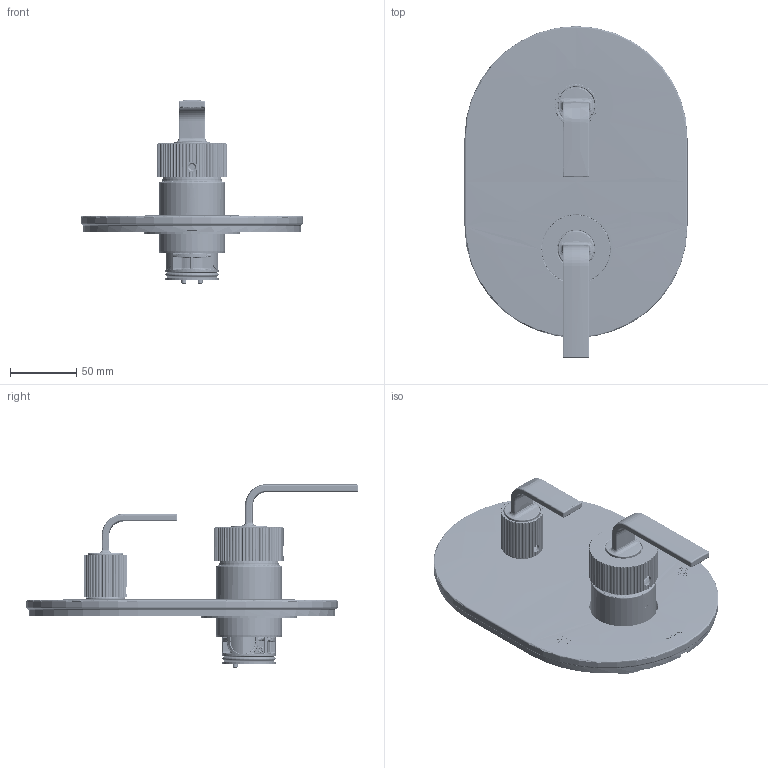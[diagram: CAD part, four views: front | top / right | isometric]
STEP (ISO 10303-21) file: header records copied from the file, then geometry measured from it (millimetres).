
FILE_DESCRIPTION (( 'STEP AP203' ), '1' );
FILE_NAME ('sku_uts3511series_stp.STEP', '2026-01-22T08:37:13', ( '' ), ( '' ), 'SwSTEP 2.0', 'SolidWorks 2025', '' );
FILE_SCHEMA (( 'CONFIG_CONTROL_DESIGN' ));
Length unit declared in the file: inch
Products named in the file (30): 216041SERIES_216041SERIES_Part339; KN40_HWS_FEDEL_KN40_HWS_FEDEL_Part319; O_GYURU_35X2_5_O_GYURU_35X2_5_Part327; 1000478_1000478_Assem60; MOEN_PB_TALP_T_MITES_MOEN_PB_TALP_T_MITES_Part324; O_GYURU17X1_5_1_O_GYURU17X1_5_1_Part326; 202780SERIES_202780series_Part340; PB_ZARO_V2_1_PB_ZARO_V2_1_Part330; 218845SERIES_218845SERIES_Part334; PB_ZARO_V2_PB_ZARO_V2_Part329; 216042SERIES_216042SERIES_Part337; 197655_197655_BREP_Part333; 216046SERIES_6695_mcore_transfer_handle_Assem63; HERNYOCSAVAR_HERNYOCSAVAR_Part318; 218847SERIES_218847SERIES_Assem62; PB_BETET_A_TALPPAL_PB_BETET_A_TALPPAL_Part328; KN40_KAR_HWS_KN40_KAR_HWS_Part322; 216055_HANDLE NUT_Part336; KN40_HWS_GYURU_KN40_HWS_GYURU_Part320; 197664_197664_BREP_Part332; KN40_STIFT_KN40_STIFT_Part323; 197636_197636_BREP_Part344; 216040_216040_Part338; 210425_FBIN_MM_ASSY_Assem61; 210423_Part1_Part331; 196901series_196901SERIES_Part341; O_GYURU17X1_5_O_GYURU17X1_5_Part325; sku_uts3511series_stp; 218844_218844SERIES_Part335; KN40_KARTARTO_HWS_KN40_KARTARTO_HWS_Part321
Assembly tree (29 placements, depth 3):
  sku_uts3511series_stp
    1000478_1000478_Assem60
      HERNYOCSAVAR_HERNYOCSAVAR_Part318
      KN40_HWS_FEDEL_KN40_HWS_FEDEL_Part319
      KN40_HWS_GYURU_KN40_HWS_GYURU_Part320
      KN40_KARTARTO_HWS_KN40_KARTARTO_HWS_Part321
      KN40_KAR_HWS_KN40_KAR_HWS_Part322
      KN40_STIFT_KN40_STIFT_Part323
      MOEN_PB_TALP_T_MITES_MOEN_PB_TALP_T_MITES_Part324
      O_GYURU17X1_5_O_GYURU17X1_5_Part325
      O_GYURU17X1_5_1_O_GYURU17X1_5_1_Part326
      O_GYURU_35X2_5_O_GYURU_35X2_5_Part327
      PB_BETET_A_TALPPAL_PB_BETET_A_TALPPAL_Part328
      PB_ZARO_V2_PB_ZARO_V2_Part329
      PB_ZARO_V2_1_PB_ZARO_V2_1_Part330
    210425_FBIN_MM_ASSY_Assem61
      210423_Part1_Part331
      197664_197664_BREP_Part332
      197655_197655_BREP_Part333
    218847SERIES_218847SERIES_Assem62
      218845SERIES_218845SERIES_Part334
      218844_218844SERIES_Part335
      216055_HANDLE NUT_Part336
    216046SERIES_6695_mcore_transfer_handle_Assem63
      216042SERIES_216042SERIES_Part337
      216040_216040_Part338
      216041SERIES_216041SERIES_Part339
    202780SERIES_202780series_Part340
    196901series_196901SERIES_Part341
    197636_197636_BREP_Part344
Bounding box: 167.75 x 249.75 x 138.08 mm (x, y, z)
Volume: 250511.3 mm3; surface area: 228804.9 mm2
Topology: 25 solids, 25 shells, 7381 faces, 18728 edges, 11176 vertices
Faces by surface type: cylinder 2039, plane 1989, bspline 1944, torus 973, cone 344, sphere 92
Entity records: 392767 total; most frequent: CARTESIAN_POINT 231203, ORIENTED_EDGE 36750, DIRECTION 28651, EDGE_CURVE 18375, VERTEX_POINT 11167, AXIS2_PLACEMENT_3D 10993, EDGE_LOOP 7580, ADVANCED_FACE 7374
